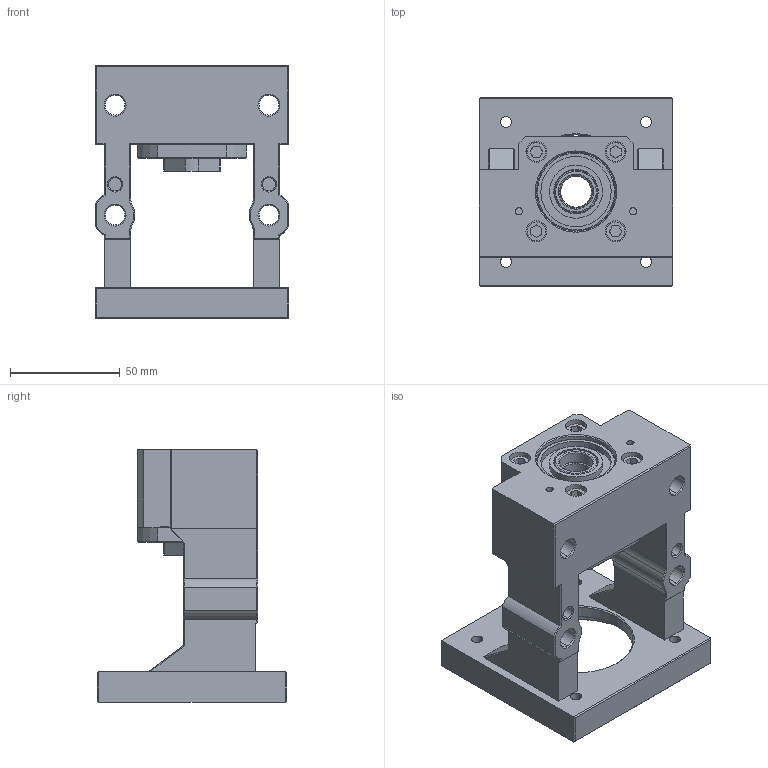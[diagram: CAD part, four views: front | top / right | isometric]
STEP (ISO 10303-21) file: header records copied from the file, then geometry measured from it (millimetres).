
FILE_DESCRIPTION (( 'STEP AP203' ), '1' );
FILE_NAME ('MBCA15-E²Õ¦X¥ó.STEP', '2025-09-15T03:32:31', ( '' ), ( '' ), 'SwSTEP 2.0', 'SolidWorks 2018', '' );
FILE_SCHEMA (( 'CONFIG_CONTROL_DESIGN' ));
Length unit declared in the file: millimetre
Products named in the file (2): MBCA15-E組合件
Bounding box: 88 x 86 x 115 mm (x, y, z)
Surface area: 62326.3 mm2 (no closed solid volume)
Topology: 0 solids, 14 shells, 316 faces, 812 edges, 515 vertices
Faces by surface type: plane 144, cylinder 105, cone 57, torus 10
Entity records: 9974 total; most frequent: CARTESIAN_POINT 1973, DIRECTION 1716, ORIENTED_EDGE 1513, EDGE_CURVE 812, AXIS2_PLACEMENT_3D 630, VERTEX_POINT 515, LINE 456, VECTOR 456
